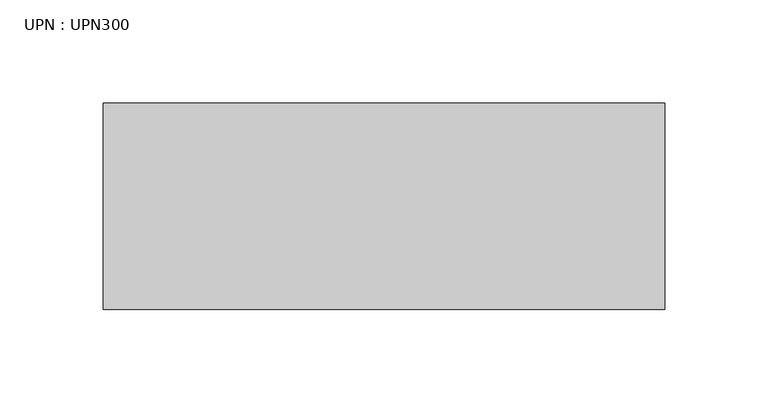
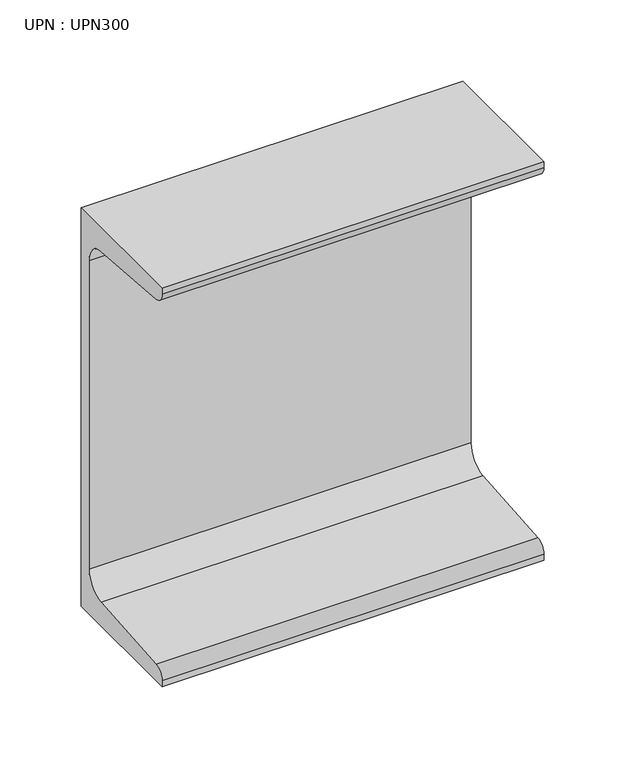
"""IFC4 building model written with IfcOpenShell, lengths in millimetres: beam geometry, UPN : UPN300."""

from ifc_helpers import new_model, si_unit, point, frame, frame_2d, origin, place, context, project, spatial, polyline, circle_curve, trimmed, segment, composite_curve, outline, extrude, source, transform, mapped, element, save


def upn_upn300_7091c5c1(model_context):
    return source(origin(), model_context, "Body", "SweptSolid", [
        extrude(outline(composite_curve([segment(polyline([(27.0, 150.0), (27.0, -150.0), (-73.0, -150.0), (-73.0, -145.3826224)]), True, "CONTINUOUS"), segment(trimmed(circle_curve(frame_2d((-65.0, -145.3826224)), 8.0), [point((-73.0, -145.3826224))], [point((-65.637416, -137.4080566))], False, "CARTESIAN"), True, "CONTINUOUS"), segment(polyline([(-65.637416, -137.4080566), (2.274832, -131.9797543)]), True, "CONTINUOUS"), segment(trimmed(circle_curve(frame_2d((1.0, -116.0306225)), 16.0), [point((2.274832, -131.9797543))], [point((17.0, -116.0306225))], True, "CARTESIAN"), True, "CONTINUOUS"), segment(polyline([(17.0, -116.0306225), (17.0, 116.0306225)]), True, "CONTINUOUS"), segment(trimmed(circle_curve(frame_2d((1.0, 116.0306225)), 16.0), [point((17.0, 116.0306225))], [point((2.274832, 131.9797543))], True, "CARTESIAN"), True, "CONTINUOUS"), segment(polyline([(2.274832, 131.9797543), (-65.637416, 137.4080566)]), True, "CONTINUOUS"), segment(trimmed(circle_curve(frame_2d((-65.0, 145.3826224)), 8.0), [point((-65.637416, 137.4080566))], [point((-73.0, 145.3826224))], False, "CARTESIAN"), True, "CONTINUOUS"), segment(polyline([(-73.0, 145.3826224), (-73.0, 150.0), (27.0, 150.0)]), True, "CONTINUOUS")], self_intersect=False)), frame((-129.25, 0.0, 0.0), z_axis=(1.0, 0.0, 0.0), x_axis=(0.0, 1.0, 0.0)), (0.0, 0.0, 1.0), 272.0),
    ])


if __name__ == "__main__":
    model = new_model("IFC4")
    model_context = context("Model", 3, world=origin())
    ifc_project = project(units=[si_unit("LENGTHUNIT", "METRE", prefix="MILLI")], contexts=[model_context])
    site = spatial("IfcSite", under=ifc_project)
    building = spatial("IfcBuilding", under=site)
    placement = place(None, origin())
    upn_upn300_shape = upn_upn300_7091c5c1(model_context)
    element("IfcBeam", 1, ObjectType="UPN : UPN300", at=placement, inside=building, context=model_context, shape_type="MappedRepresentation", body=[
        mapped(upn_upn300_shape, transform((0.0, 0.0, 0.0), x_axis=(1.0, 0.0, 0.0), y_axis=(0.0, 1.0, 0.0), z_axis=(0.0, 0.0, 1.0))),
    ])
    save(model, "model.ifc")
